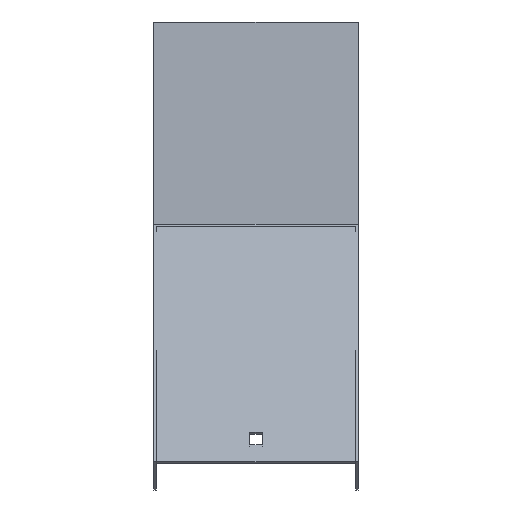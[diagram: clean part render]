
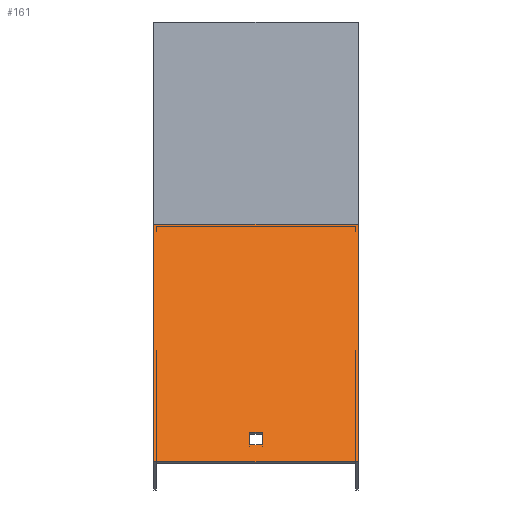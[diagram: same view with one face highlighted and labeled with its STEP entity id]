
A CAD part, top view. The second image highlights one B-rep face of the part: STEP entity #161.
In plain terms, the highlighted planar face has unit normal (0, 0.707, 0.707).
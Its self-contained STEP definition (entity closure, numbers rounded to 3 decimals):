
#10 = CARTESIAN_POINT ( 'NONE',  ( 51.5, -186.796, 520.25 ) ) ;
#15 = DIRECTION ( 'NONE',  ( 1., 0., 0. ) ) ;
#38 = LINE ( 'NONE', #229, #401 ) ;
#39 = VERTEX_POINT ( 'NONE', #63 ) ;
#43 = EDGE_CURVE ( 'NONE', #75, #572, #127, .T. ) ;
#63 = CARTESIAN_POINT ( 'NONE',  ( -51.5, -82.16, 415.614 ) ) ;
#68 = VECTOR ( 'NONE', #356, 1000. ) ;
#75 = VERTEX_POINT ( 'NONE', #478 ) ;
#78 = EDGE_CURVE ( 'NONE', #572, #163, #824, .T. ) ;
#88 = ORIENTED_EDGE ( 'NONE', *, *, #522, .T. ) ;
#89 = VERTEX_POINT ( 'NONE', #354 ) ;
#108 = EDGE_CURVE ( 'NONE', #762, #89, #38, .T. ) ;
#112 = VECTOR ( 'NONE', #256, 1000. ) ;
#115 = DIRECTION ( 'NONE',  ( 0., -0.707, 0.707 ) ) ;
#127 = LINE ( 'NONE', #850, #112 ) ;
#153 = FACE_OUTER_BOUND ( 'NONE', #540, .T. ) ;
#157 = EDGE_CURVE ( 'NONE', #762, #39, #631, .T. ) ;
#159 = DIRECTION ( 'NONE',  ( 0., -0.707, 0.707 ) ) ;
#161 = ADVANCED_FACE ( 'NONE', ( #342, #153 ), #613, .F. ) ;
#163 = VERTEX_POINT ( 'NONE', #224 ) ;
#224 = CARTESIAN_POINT ( 'NONE',  ( -3.25, -186.796, 520.25 ) ) ;
#229 = CARTESIAN_POINT ( 'NONE',  ( 51.5, -84.973, 418.427 ) ) ;
#231 = EDGE_CURVE ( 'NONE', #163, #493, #396, .T. ) ;
#237 = ORIENTED_EDGE ( 'NONE', *, *, #654, .T. ) ;
#256 = DIRECTION ( 'NONE',  ( -1., 0., 0. ) ) ;
#300 = ORIENTED_EDGE ( 'NONE', *, *, #78, .T. ) ;
#306 = EDGE_CURVE ( 'NONE', #89, #604, #563, .T. ) ;
#318 = ORIENTED_EDGE ( 'NONE', *, *, #108, .F. ) ;
#331 = CARTESIAN_POINT ( 'NONE',  ( -51.5, -84.973, 418.427 ) ) ;
#342 = FACE_BOUND ( 'NONE', #569, .T. ) ;
#354 = CARTESIAN_POINT ( 'NONE',  ( 51.5, -201.645, 535.1 ) ) ;
#356 = DIRECTION ( 'NONE',  ( -1., 0., 0. ) ) ;
#375 = CARTESIAN_POINT ( 'NONE',  ( -3.25, -193.16, 526.614 ) ) ;
#396 = LINE ( 'NONE', #10, #675 ) ;
#401 = VECTOR ( 'NONE', #159, 1000. ) ;
#428 = CARTESIAN_POINT ( 'NONE',  ( 51.5, -82.16, 415.614 ) ) ;
#429 = CARTESIAN_POINT ( 'NONE',  ( 3.25, -186.796, 520.25 ) ) ;
#441 = VECTOR ( 'NONE', #827, 1000. ) ;
#478 = CARTESIAN_POINT ( 'NONE',  ( 3.25, -193.16, 526.614 ) ) ;
#493 = VERTEX_POINT ( 'NONE', #429 ) ;
#522 = EDGE_CURVE ( 'NONE', #493, #75, #557, .T. ) ;
#540 = EDGE_LOOP ( 'NONE', ( #237, #816, #318, #683 ) ) ;
#546 = VECTOR ( 'NONE', #115, 1000. ) ;
#547 = VECTOR ( 'NONE', #628, 1000. ) ;
#552 = DIRECTION ( 'NONE',  ( 0., 0.707, -0.707 ) ) ;
#557 = LINE ( 'NONE', #561, #441 ) ;
#561 = CARTESIAN_POINT ( 'NONE',  ( 3.25, -84.973, 418.427 ) ) ;
#563 = LINE ( 'NONE', #702, #68 ) ;
#569 = EDGE_LOOP ( 'NONE', ( #612, #88, #617, #300 ) ) ;
#572 = VERTEX_POINT ( 'NONE', #375 ) ;
#574 = AXIS2_PLACEMENT_3D ( 'NONE', #684, #618, #552 ) ;
#589 = CARTESIAN_POINT ( 'NONE',  ( 51.5, -82.16, 415.614 ) ) ;
#604 = VERTEX_POINT ( 'NONE', #779 ) ;
#612 = ORIENTED_EDGE ( 'NONE', *, *, #231, .T. ) ;
#613 = PLANE ( 'NONE',  #574 ) ;
#617 = ORIENTED_EDGE ( 'NONE', *, *, #43, .T. ) ;
#618 = DIRECTION ( 'NONE',  ( 0., -0.707, -0.707 ) ) ;
#628 = DIRECTION ( 'NONE',  ( 0., 0.707, -0.707 ) ) ;
#631 = LINE ( 'NONE', #428, #788 ) ;
#654 = EDGE_CURVE ( 'NONE', #39, #604, #836, .T. ) ;
#675 = VECTOR ( 'NONE', #15, 1000. ) ;
#683 = ORIENTED_EDGE ( 'NONE', *, *, #157, .T. ) ;
#684 = CARTESIAN_POINT ( 'NONE',  ( 51.5, -84.973, 418.427 ) ) ;
#696 = CARTESIAN_POINT ( 'NONE',  ( -3.25, -84.973, 418.427 ) ) ;
#702 = CARTESIAN_POINT ( 'NONE',  ( 51.5, -201.645, 535.1 ) ) ;
#751 = DIRECTION ( 'NONE',  ( -1., 0., 0. ) ) ;
#762 = VERTEX_POINT ( 'NONE', #589 ) ;
#779 = CARTESIAN_POINT ( 'NONE',  ( -51.5, -201.645, 535.1 ) ) ;
#788 = VECTOR ( 'NONE', #751, 1000. ) ;
#816 = ORIENTED_EDGE ( 'NONE', *, *, #306, .F. ) ;
#824 = LINE ( 'NONE', #696, #547 ) ;
#827 = DIRECTION ( 'NONE',  ( 0., -0.707, 0.707 ) ) ;
#836 = LINE ( 'NONE', #331, #546 ) ;
#850 = CARTESIAN_POINT ( 'NONE',  ( 51.5, -193.16, 526.614 ) ) ;
